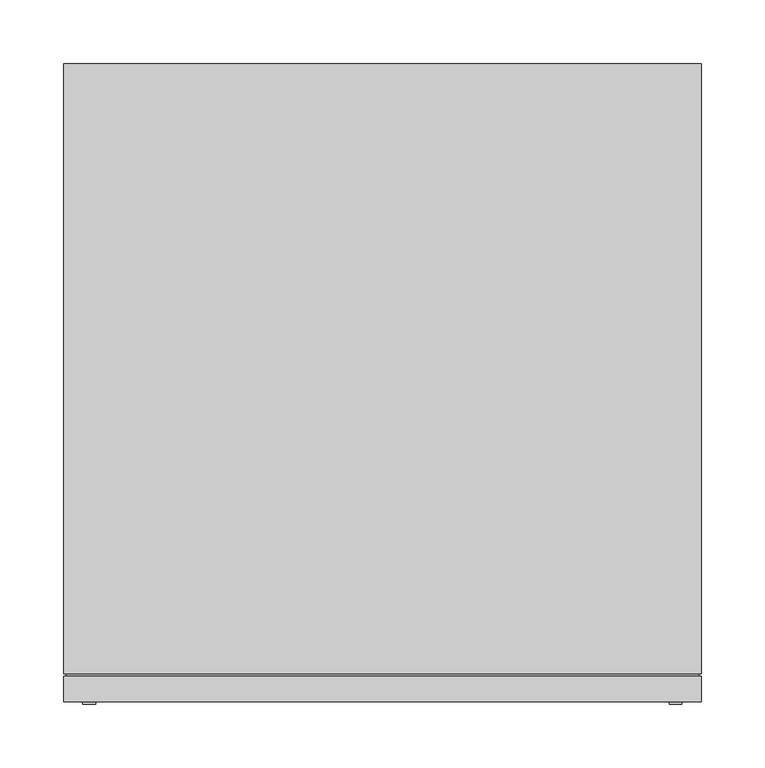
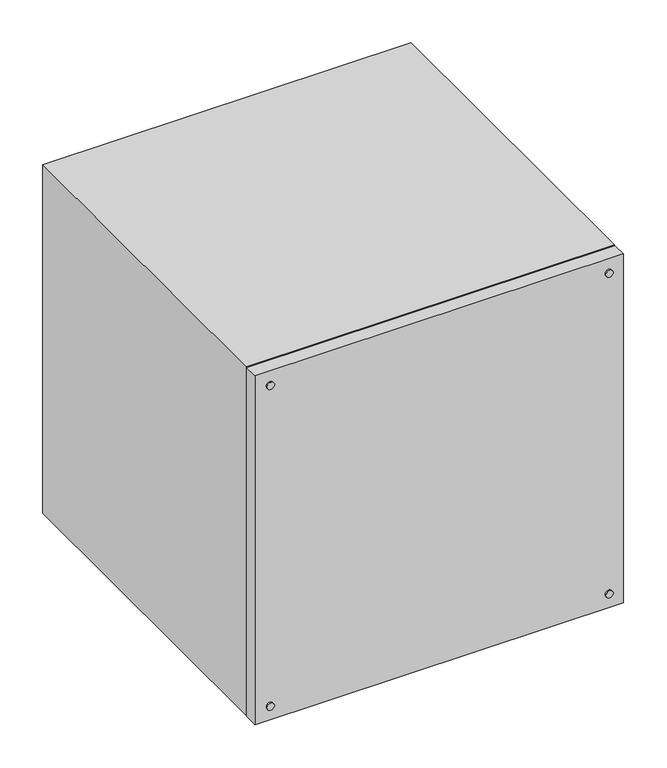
"""IFC4 building model written with IfcOpenShell, lengths in millimetres: proxy geometry, 20206_プルボックス_大_強電用 : 幹線設備."""

import ifcopenshell
import ifcopenshell.guid

model = None  # the IFC model being written
_history = None  # IfcOwnerHistory: only IFC2X3 demands one
_inside = {}  # id of a spatial element -> (the spatial element, [elements in it])
_under = {}  # id of a project, library or spatial element -> (it, [spatial elements below it])
_declared = {}  # id of a project -> (the project, [libraries it declares])
_typed = {}  # id of a type object -> (the type object, [elements of that type])
_made_of = {}  # id of a material, layer set ... -> (it, [elements and type objects made of it])


def new_model(schema):
    """Start an empty IFC model of exactly this schema.

    Asked for "IFC4X3", IfcOpenShell would pick the latest addendum, in which some entities
    have other attributes; the version numbers below select the first issue.
    IFC2X3 requires an IfcOwnerHistory on every rooted entity: one is made here for all.
    """
    global model, _history
    if schema == "IFC4X3":
        model = ifcopenshell.file(schema_version=(4, 3, 0, 0))
    else:
        model = ifcopenshell.file(schema=schema)
    _inside.clear()
    _under.clear()
    _declared.clear()
    _typed.clear()
    _made_of.clear()
    _history = None
    if model.schema == "IFC2X3":
        org = make("IfcOrganization", Name="unknown")
        user = make(
            "IfcPersonAndOrganization",
            ThePerson=make("IfcPerson", FamilyName="unknown"),
            TheOrganization=org,
        )
        app = make(
            "IfcApplication",
            ApplicationDeveloper=org,
            Version="unknown",
            ApplicationFullName="unknown",
            ApplicationIdentifier="unknown",
        )
        _history = make(
            "IfcOwnerHistory",
            OwningUser=user,
            OwningApplication=app,
            ChangeAction="ADDED",
            CreationDate=0,
        )
    return model


def make(cls, **values):
    """One entity of the class cls with the attributes given. An attribute that is None is left unset."""
    return model.create_entity(
        cls, **{name: value for name, value in values.items() if value is not None}
    )


def rooted(cls, **values):
    """An entity with a GlobalId (a new one), such as an element, a storey or a relation."""
    return make(cls, GlobalId=ifcopenshell.guid.new(), OwnerHistory=_history, **values)


def si_unit(unit_type, name, prefix=None):
    """IfcSIUnit, for example si_unit("LENGTHUNIT", "METRE", prefix="MILLI")."""
    return make("IfcSIUnit", UnitType=unit_type, Prefix=prefix, Name=name)


def assignment(units):
    """IfcUnitAssignment: the units of a project."""
    return None if units is None else make("IfcUnitAssignment", Units=units)


def point(xyz):
    """IfcCartesianPoint."""
    return None if xyz is None else make("IfcCartesianPoint", Coordinates=xyz)


def direction(xyz):
    """IfcDirection."""
    return None if xyz is None else make("IfcDirection", DirectionRatios=xyz)


def frame(location, z_axis=None, x_axis=None):
    """IfcAxis2Placement3D, a coordinate frame: its origin and axes. An axis left out is left unset."""
    return make(
        "IfcAxis2Placement3D",
        Location=point(location),
        Axis=direction(z_axis),
        RefDirection=direction(x_axis),
    )


def frame_2d(location, x_axis=None):
    """IfcAxis2Placement2D, a coordinate frame in the plane: its origin and x axis."""
    return make(
        "IfcAxis2Placement2D", Location=point(location), RefDirection=direction(x_axis)
    )


def origin():
    """The frame at (0, 0, 0) with its axes left unset."""
    return frame((0.0, 0.0, 0.0))


def place(relative_to, where):
    """IfcLocalPlacement: puts the frame where relative to a parent placement (None: the world)."""
    return make(
        "IfcLocalPlacement", PlacementRelTo=relative_to, RelativePlacement=where
    )


def context(
    kind, dimensions, precision=None, world=None, true_north=None, identifier=None
):
    """IfcGeometricRepresentationContext, for example the 3D "Model" context."""
    return make(
        "IfcGeometricRepresentationContext",
        ContextIdentifier=identifier,
        ContextType=kind,
        CoordinateSpaceDimension=dimensions,
        Precision=precision,
        WorldCoordinateSystem=world,
        TrueNorth=true_north,
    )


def project(units=None, contexts=None):
    """IfcProject with its units and contexts."""
    return rooted(
        "IfcProject",
        Name="project",
        RepresentationContexts=contexts,
        UnitsInContext=assignment(units),
    )


def spatial(cls, under=None, at=None, **own):
    """A site, building, storey or space (cls), placed at a placement, below another one or the project."""
    s = rooted(cls, ObjectPlacement=at, **own)
    if under is not None:
        _under.setdefault(under.id(), (under, []))[1].append(s)
    return s


def circle_curve(where, radius):
    """IfcCircle in the frame where."""
    return make("IfcCircle", Position=where, Radius=radius)


def trimmed(basis, trim1, trim2, sense, master):
    """IfcTrimmedCurve: the piece of a basis curve between two trims."""
    return make(
        "IfcTrimmedCurve",
        BasisCurve=basis,
        Trim1=trim1,
        Trim2=trim2,
        SenseAgreement=sense,
        MasterRepresentation=master,
    )


def segment(curve, same_sense, transition):
    """IfcCompositeCurveSegment."""
    return make(
        "IfcCompositeCurveSegment",
        Transition=transition,
        SameSense=same_sense,
        ParentCurve=curve,
    )


def composite_curve(segments, self_intersect=None):
    """IfcCompositeCurve: segments joined end to end."""
    return make("IfcCompositeCurve", Segments=segments, SelfIntersect=self_intersect)


def outline(outer, holes=None, kind="AREA"):
    """IfcArbitraryClosedProfileDef: a profile drawn as a closed curve; with holes, ...WithVoids."""
    if holes is None:
        return make("IfcArbitraryClosedProfileDef", ProfileType=kind, OuterCurve=outer)
    return make(
        "IfcArbitraryProfileDefWithVoids",
        ProfileType=kind,
        OuterCurve=outer,
        InnerCurves=holes,
    )


def extrude(swept, where, along, depth):
    """IfcExtrudedAreaSolid: the profile swept, set in the frame where, extruded along a direction by depth."""
    return make(
        "IfcExtrudedAreaSolid",
        SweptArea=swept,
        Position=where,
        ExtrudedDirection=direction(along),
        Depth=depth,
    )


def faces_of(points, faces, orient=None, outer=None):
    """IfcFace entities. A face is a list of loops; a loop is a list of indices into points, from 0.

    orient and outer hold one flag for each loop. By default every Orientation is true, the
    first loop of a face is its IfcFaceOuterBound and the others are IfcFaceBound.
    """
    made = []
    for i, loops in enumerate(faces):
        bounds = []
        for j, loop in enumerate(loops):
            is_outer = j == 0 if outer is None else outer[i][j]
            bounds.append(
                make(
                    "IfcFaceOuterBound" if is_outer else "IfcFaceBound",
                    Bound=make("IfcPolyLoop", Polygon=[points[k] for k in loop]),
                    Orientation=True if orient is None else orient[i][j],
                )
            )
        made.append(make("IfcFace", Bounds=bounds))
    return made


def faceted_brep(points, faces, orient=None, outer=None, voids=None):
    """IfcFacetedBrep: a solid bounded by flat faces; with voids (closed shells), ...WithVoids."""
    shared = [point(p) for p in points]
    hull = make("IfcClosedShell", CfsFaces=faces_of(shared, faces, orient, outer))
    if voids is None:
        return make("IfcFacetedBrep", Outer=hull)
    return make(
        "IfcFacetedBrepWithVoids",
        Outer=hull,
        Voids=[
            make(cls, CfsFaces=faces_of(shared, fs, o, b)) for cls, fs, o, b in voids
        ],
    )


def shape(context_of_items, identifier, shape_type, items):
    """IfcShapeRepresentation: the items that make up one representation, for example the "Body"."""
    return make(
        "IfcShapeRepresentation",
        ContextOfItems=context_of_items,
        RepresentationIdentifier=identifier,
        RepresentationType=shape_type,
        Items=items,
    )


def source(mapping_origin, context_of_items, identifier, shape_type, items):
    """IfcRepresentationMap: a shape defined once, which mapped items show again and again."""
    return make(
        "IfcRepresentationMap",
        MappingOrigin=mapping_origin,
        MappedRepresentation=shape(context_of_items, identifier, shape_type, items),
    )


def transform(
    local_origin,
    x_axis=None,
    y_axis=None,
    z_axis=None,
    scale=None,
    scale2=None,
    scale3=None,
    uniform=True,
):
    """IfcCartesianTransformationOperator3D, or its non-uniform kind. x_axis, y_axis, z_axis: its Axis1, 2, 3."""
    if uniform:
        return make(
            "IfcCartesianTransformationOperator3D",
            Axis1=direction(x_axis),
            Axis2=direction(y_axis),
            LocalOrigin=point(local_origin),
            Scale=scale,
            Axis3=direction(z_axis),
        )
    return make(
        "IfcCartesianTransformationOperator3DnonUniform",
        Axis1=direction(x_axis),
        Axis2=direction(y_axis),
        LocalOrigin=point(local_origin),
        Scale=scale,
        Axis3=direction(z_axis),
        Scale2=scale2,
        Scale3=scale3,
    )


def mapped(mapping_source, mapping_target):
    """IfcMappedItem: shows the shape of a source again, moved by a transform."""
    return make(
        "IfcMappedItem", MappingSource=mapping_source, MappingTarget=mapping_target
    )


def made_of(thing, what):
    """Note that an element or type object is made of a material, layer set ...; save() writes the relation."""
    if what is not None:
        _made_of.setdefault(what.id(), (what, []))[1].append(thing)
    return thing


def element(
    cls,
    number,
    at=None,
    inside=None,
    cuts=None,
    type_object=None,
    material=None,
    context=None,
    identifier="Body",
    shape_type=None,
    held_by="IfcProductDefinitionShape",
    body=None,
    shapes=None,
    **own,
):
    """One element of the class cls, such as IfcWall. Its Tag is "e" and its number.

    at: its placement. inside: the storey or other place that contains it. cuts: it is an
    opening in that element (IfcRelVoidsElement). A single representation is given by context,
    identifier, shape_type and body (its items); several are given by shapes. held_by: the class
    of the entity that holds the representations. save() writes the other relations.
    """
    e = rooted(cls, Tag="e%d" % number, ObjectPlacement=at, **own)
    if body is not None:
        shapes = [shape(context, identifier, shape_type, body)]
    if shapes is not None:
        e.Representation = make(held_by, Representations=shapes)
    if inside is not None:
        _inside.setdefault(inside.id(), (inside, []))[1].append(e)
    if cuts is not None:
        rooted(
            "IfcRelVoidsElement", RelatingBuildingElement=cuts, RelatedOpeningElement=e
        )
    if type_object is not None:
        _typed.setdefault(type_object.id(), (type_object, []))[1].append(e)
    return made_of(e, material)


def aggregate(whole, parts):
    """IfcRelAggregates: a whole, such as a stair, and the parts it consists of."""
    return rooted("IfcRelAggregates", RelatingObject=whole, RelatedObjects=parts)


def save(model, path):
    """Write the relations noted so far, then the file.

    IfcRelAggregates (storeys below a building ...), IfcRelContainedInSpatialStructure (elements
    in a storey), IfcRelDefinesByType, IfcRelAssociatesMaterial and IfcRelDeclares: one each for
    every whole, place, type object, material and project.
    """
    for whole, parts in _under.values():
        aggregate(whole, parts)
    for where, things in _inside.values():
        rooted(
            "IfcRelContainedInSpatialStructure",
            RelatedElements=things,
            RelatingStructure=where,
        )
    for kind, things in _typed.values():
        rooted("IfcRelDefinesByType", RelatedObjects=things, RelatingType=kind)
    for what, things in _made_of.values():
        rooted("IfcRelAssociatesMaterial", RelatedObjects=things, RelatingMaterial=what)
    for by, libraries in _declared.values():
        rooted("IfcRelDeclares", RelatingContext=by, RelatedDefinitions=libraries)
    model.write(path)


def electrical_fixtures_ff4ad9fe(model_context):
    return source(origin(), model_context, "Body", "SolidModel", [
        extrude(outline(composite_curve([segment(trimmed(circle_curve(frame_2d((480.0, -230.0)), 5.0), [point((480.0, -225.0))], [point((480.0, -235.0))], False, "CARTESIAN"), True, "CONTINUOUS"), segment(trimmed(circle_curve(frame_2d((480.0, -230.0)), 5.0), [point((480.0, -235.0))], [point((480.0, -225.0))], False, "CARTESIAN"), True, "CONTINUOUS")], self_intersect=False)), frame((0.0, -252.0, 0.0), z_axis=(0.0, 1.0, 0.0), x_axis=(0.0, 0.0, 1.0)), (0.0, 0.0, 1.0), 2.0),
        extrude(outline(composite_curve([segment(trimmed(circle_curve(frame_2d((480.0, 230.0)), 5.0), [point((480.0, 235.0))], [point((480.0, 225.0))], False, "CARTESIAN"), True, "CONTINUOUS"), segment(trimmed(circle_curve(frame_2d((480.0, 230.0)), 5.0), [point((480.0, 225.0))], [point((480.0, 235.0))], False, "CARTESIAN"), True, "CONTINUOUS")], self_intersect=False)), frame((0.0, -252.0, 0.0), z_axis=(0.0, 1.0, 0.0), x_axis=(0.0, 0.0, 1.0)), (0.0, 0.0, 1.0), 2.0),
        extrude(outline(composite_curve([segment(trimmed(circle_curve(frame_2d((20.0, -230.0)), 5.0), [point((20.0, -225.0))], [point((20.0, -235.0))], False, "CARTESIAN"), True, "CONTINUOUS"), segment(trimmed(circle_curve(frame_2d((20.0, -230.0)), 5.0), [point((20.0, -235.0))], [point((20.0, -225.0))], False, "CARTESIAN"), True, "CONTINUOUS")], self_intersect=False)), frame((0.0, -252.0, 0.0), z_axis=(0.0, 1.0, 0.0), x_axis=(0.0, 0.0, 1.0)), (0.0, 0.0, 1.0), 2.0),
        extrude(outline(composite_curve([segment(trimmed(circle_curve(frame_2d((20.0, 230.0)), 5.0), [point((20.0, 235.0))], [point((20.0, 225.0))], False, "CARTESIAN"), True, "CONTINUOUS"), segment(trimmed(circle_curve(frame_2d((20.0, 230.0)), 5.0), [point((20.0, 225.0))], [point((20.0, 235.0))], False, "CARTESIAN"), True, "CONTINUOUS")], self_intersect=False)), frame((0.0, -252.0, 0.0), z_axis=(0.0, 1.0, 0.0), x_axis=(0.0, 0.0, 1.0)), (0.0, 0.0, 1.0), 2.0),
        faceted_brep([(250.0, 250.0, 500.0), (-250.0, 250.0, 500.0), (-250.0, -228.1279995, 500.0), (250.0, -228.1279995, 500.0), (-250.0, -250.0, 500.0), (250.0, -250.0, 500.0), (250.0, -230.1279995, 500.0), (-250.0, -230.1279995, 500.0), (250.0, -250.0, 0.0), (-250.0, -250.0, 0.0), (-250.0, -230.1279995, 0.0), (250.0, -230.1279995, 0.0), (-250.0, 250.0, 0.0), (250.0, 250.0, 0.0), (250.0, -228.1279995, 0.0), (-250.0, -228.1279995, 0.0), (248.0, -230.1279995, 498.0), (248.0, -230.1279995, 2.0), (248.0, -228.1279995, 2.0), (248.0, -228.1279995, 498.0), (-248.0, -230.1279995, 2.0), (-248.0, -228.1279995, 2.0), (-248.0, -230.1279995, 498.0), (-248.0, -228.1279995, 498.0)], [[[0, 1, 2, 3]], [[4, 5, 6, 7]], [[8, 9, 10, 11]], [[12, 13, 14, 15]], [[1, 0, 13, 12]], [[1, 12, 15, 2]], [[9, 4, 7, 10]], [[5, 4, 9, 8]], [[13, 0, 3, 14]], [[5, 8, 11, 6]], [[16, 17, 18, 19]], [[18, 17, 20, 21]], [[21, 20, 22, 23]], [[3, 2, 15, 14], [19, 18, 21, 23]], [[16, 19, 23, 22]], [[7, 6, 11, 10], [17, 16, 22, 20]]]),
    ])


if __name__ == "__main__":
    model = new_model("IFC4")
    model_context = context("Model", 3, world=origin())
    ifc_project = project(units=[si_unit("LENGTHUNIT", "METRE", prefix="MILLI")], contexts=[model_context])
    site = spatial("IfcSite", under=ifc_project)
    building = spatial("IfcBuilding", under=site)
    placement = place(None, origin())
    electrical_fixtures_shape = electrical_fixtures_ff4ad9fe(model_context)
    element("IfcBuildingElementProxy", 1, Name="20206_プルボックス_大_強電用 : 幹線設備", ObjectType="20206_プルボックス_大_強電用 : 幹線設備", at=placement, inside=building, context=model_context, shape_type="MappedRepresentation", body=[
        mapped(electrical_fixtures_shape, transform((0.0, 0.0, 0.0), x_axis=(1.0, 0.0, 0.0), y_axis=(0.0, 1.0, 0.0), z_axis=(0.0, 0.0, 1.0))),
    ])
    save(model, "model.ifc")
